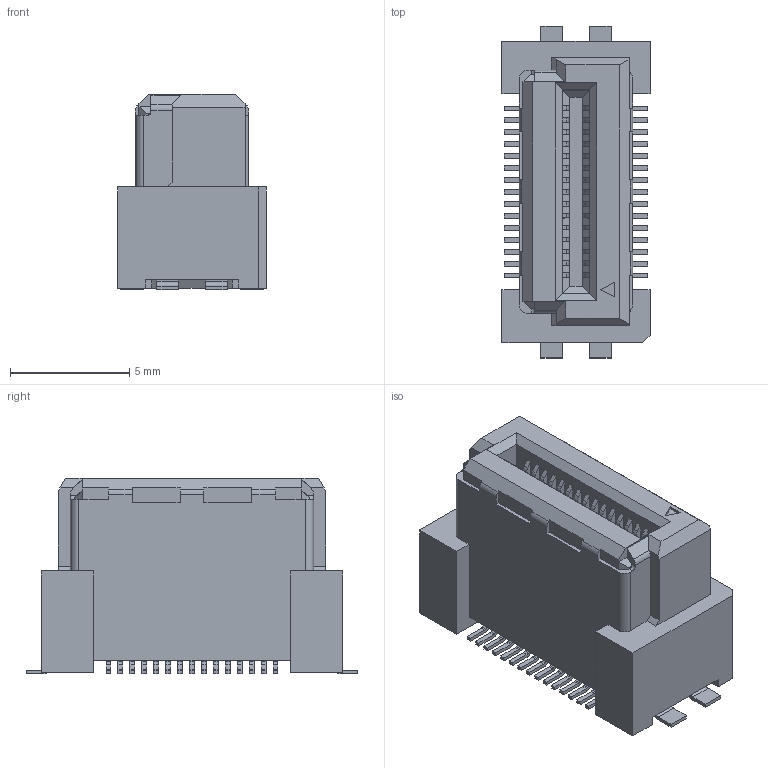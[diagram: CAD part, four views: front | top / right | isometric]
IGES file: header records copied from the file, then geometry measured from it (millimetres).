
Start section: Elysium IGES Interface
Global section: file name: 73HC:\Users\1390\Desktop\作業用\Web用3DCAD\提出用\P3D582_DT10S-030S-10-T.igs; native system: Creo Elements/Direct Modeling 20.6  25-Mar-2023; preprocessor: Creo Element/Direct IGES_3D V2.2; author: Unknown; organization: Unknown; date: 20250507.161130; units: millimetre
Bounding box: 6.2 x 13.9 x 8.18 mm (x, y, z)
Volume: 418.1 mm3; surface area: 534.8 mm2
Topology: 1 solids, 1 shells, 694 faces, 1868 edges, 1242 vertices
Faces by surface type: bspline 694
